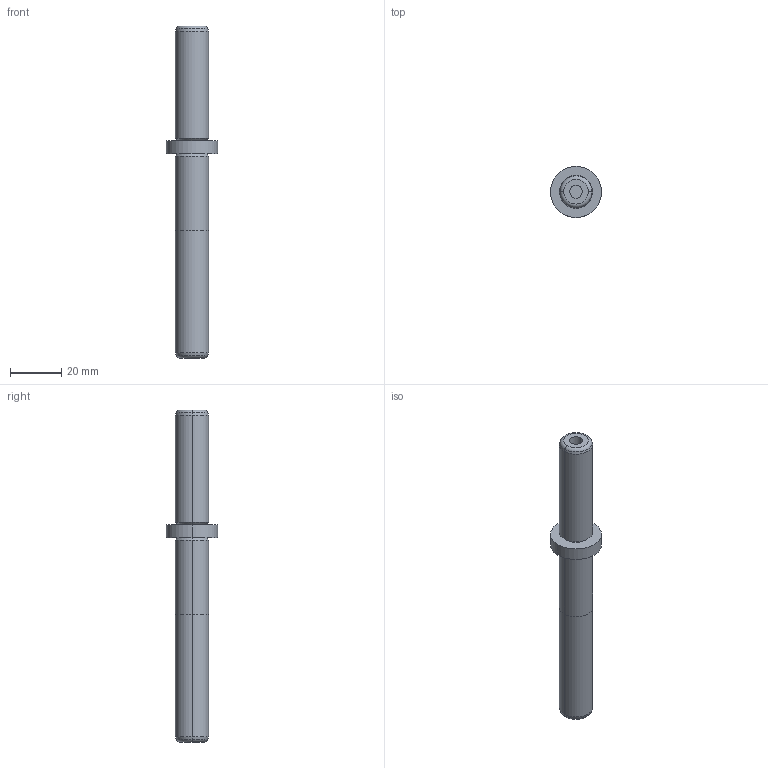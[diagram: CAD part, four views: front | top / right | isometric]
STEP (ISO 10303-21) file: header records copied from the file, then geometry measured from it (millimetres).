
FILE_DESCRIPTION(/* description */ (''),/* implementation_level */ '2;1');
FILE_NAME(/* name */ '3d_sgpwh13-80-50-b30_05309_r00.stp',/* time_stamp */ '2011-01-10T14:11:02+09:00',/* author */ ('MISUMI'),/* organization */ (''),/* preprocessor_version */ 'ST-DEVELOPER v11',/* originating_system */ 'UGS - NX 5.0',/* authorisation */ '');
FILE_SCHEMA (('CONFIG_CONTROL_DESIGN'));
Length unit declared in the file: millimetre
Products named in the file (1): 3d_sgpwh13-80-50-b30_05309_r00
Bounding box: 20 x 20 x 130 mm (x, y, z)
Volume: 17198.6 mm3; surface area: 6769.2 mm2
Topology: 1 solids, 1 shells, 30 faces, 58 edges, 34 vertices
Faces by surface type: cylinder 12, cone 8, plane 6, torus 4
Entity records: 854 total; most frequent: DIRECTION 158, CARTESIAN_POINT 123, ORIENTED_EDGE 116, AXIS2_PLACEMENT_3D 69, EDGE_CURVE 58, CIRCLE 38, EDGE_LOOP 34, VERTEX_POINT 34
